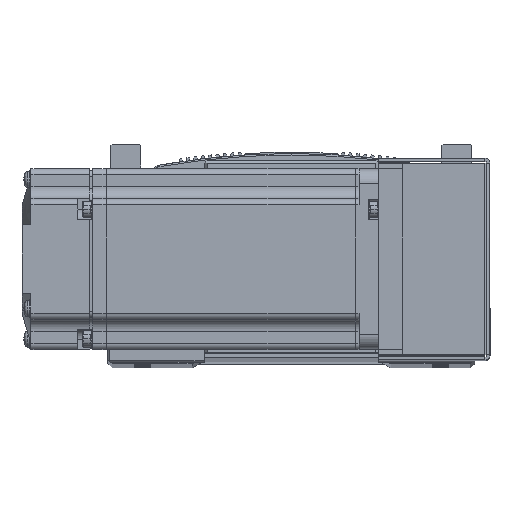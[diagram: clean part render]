
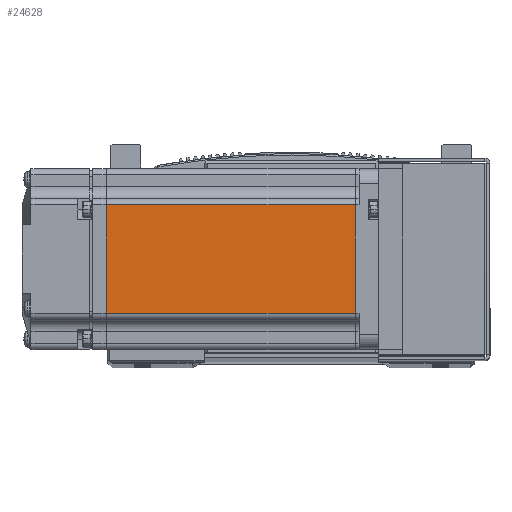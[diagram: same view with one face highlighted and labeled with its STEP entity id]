
A CAD part, top view. The second image highlights one B-rep face of the part: STEP entity #24628.
In plain terms, the highlighted planar face has unit normal (0, 0, 1) as drawn and (0, 1, 0) by its records, which use the part's own axes.
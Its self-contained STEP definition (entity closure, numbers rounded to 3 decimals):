
#19104 = CARTESIAN_POINT ( 'NONE',  ( -90.45, 30., -18. ) ) ;
#19161 = CARTESIAN_POINT ( 'NONE',  ( -7.75, 30., -18. ) ) ;
#19237 = CARTESIAN_POINT ( 'NONE',  ( -7.75, 30., 18. ) ) ;
#19239 = CARTESIAN_POINT ( 'NONE',  ( -90.45, 30., 18. ) ) ;
#21314 = CARTESIAN_POINT ( 'NONE',  ( -6.5, 30., -18. ) ) ;
#21329 = DIRECTION ( 'NONE',  ( -1., 0., 0. ) ) ;
#21346 = DIRECTION ( 'NONE',  ( 1., 0., 0. ) ) ;
#21362 = CARTESIAN_POINT ( 'NONE',  ( -6.5, 30., 18. ) ) ;
#21390 = CARTESIAN_POINT ( 'NONE',  ( -7.75, 30., 0. ) ) ;
#21400 = DIRECTION ( 'NONE',  ( 0., 0., 1. ) ) ;
#21544 = CARTESIAN_POINT ( 'NONE',  ( -90.45, 30., 0. ) ) ;
#21763 = DIRECTION ( 'NONE',  ( 0., 0., 1. ) ) ;
#24628 = ADVANCED_FACE ( 'NONE', ( #48913 ), #82566, .T. ) ;
#27194 = LINE ( 'NONE', #21314, #27204 ) ;
#27201 = LINE ( 'NONE', #21362, #27227 ) ;
#27204 = VECTOR ( 'NONE', #21329, 1000. ) ;
#27227 = VECTOR ( 'NONE', #21346, 1000. ) ;
#27266 = LINE ( 'NONE', #21390, #27296 ) ;
#27296 = VECTOR ( 'NONE', #21400, 1000. ) ;
#27302 = VECTOR ( 'NONE', #21763, 1000. ) ;
#27352 = LINE ( 'NONE', #21544, #27302 ) ;
#47548 = AXIS2_PLACEMENT_3D ( 'NONE', #82540, #82538, #82543 ) ;
#48913 = FACE_OUTER_BOUND ( 'NONE', #58362, .T. ) ;
#58362 = EDGE_LOOP ( 'NONE', ( #69191, #67378, #67499, #67564 ) ) ;
#66796 = EDGE_CURVE ( 'NONE', #69070, #69096, #27194, .T. ) ;
#66808 = EDGE_CURVE ( 'NONE', #69310, #69288, #27201, .T. ) ;
#66819 = EDGE_CURVE ( 'NONE', #69070, #69288, #27266, .T. ) ;
#66868 = EDGE_CURVE ( 'NONE', #69096, #69310, #27352, .T. ) ;
#67378 = ORIENTED_EDGE ( 'NONE', *, *, #66796, .T. ) ;
#67499 = ORIENTED_EDGE ( 'NONE', *, *, #66868, .T. ) ;
#67564 = ORIENTED_EDGE ( 'NONE', *, *, #66808, .T. ) ;
#69070 = VERTEX_POINT ( 'NONE', #19161 ) ;
#69096 = VERTEX_POINT ( 'NONE', #19104 ) ;
#69191 = ORIENTED_EDGE ( 'NONE', *, *, #66819, .F. ) ;
#69288 = VERTEX_POINT ( 'NONE', #19237 ) ;
#69310 = VERTEX_POINT ( 'NONE', #19239 ) ;
#82538 = DIRECTION ( 'NONE',  ( 0., 1., 0. ) ) ;
#82540 = CARTESIAN_POINT ( 'NONE',  ( -6.5, 30., 25. ) ) ;
#82543 = DIRECTION ( 'NONE',  ( 0., 0., 1. ) ) ;
#82566 = PLANE ( 'NONE',  #47548 ) ;
